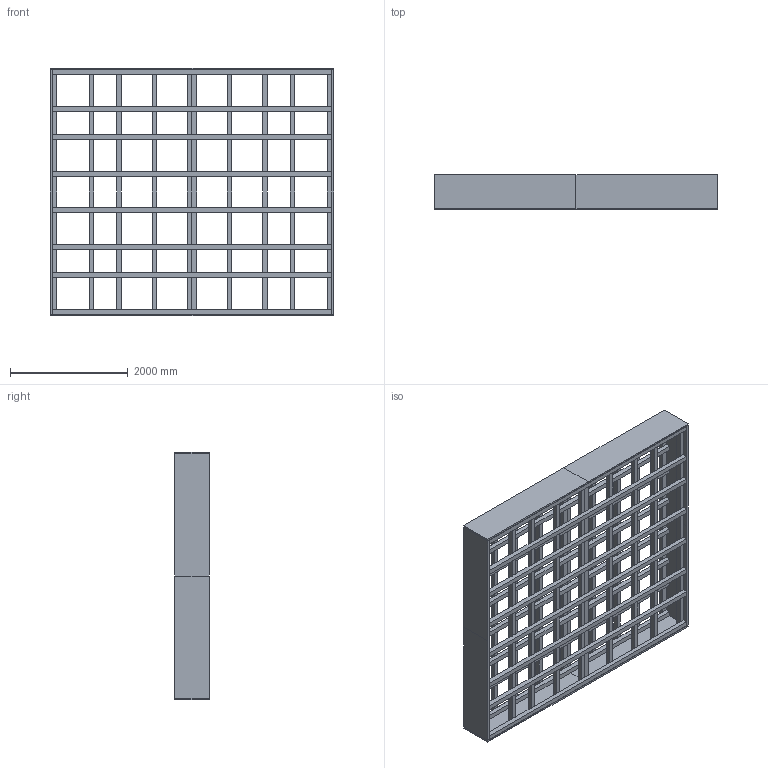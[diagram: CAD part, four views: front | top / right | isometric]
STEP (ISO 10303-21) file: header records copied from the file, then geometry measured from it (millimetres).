
FILE_DESCRIPTION (( 'STEP AP214' ), '1' );
FILE_NAME ('woodtype-4820x4220.STEP', '2026-02-12T13:17:43', ( '' ), ( '' ), 'SwSTEP 2.0', 'SolidWorks 2025', '' );
FILE_SCHEMA (( 'AUTOMOTIVE_DESIGN' ));
Length unit declared in the file: millimetre
Products named in the file (11): wood-580x30x2410-3; wood-580x30x2410-1; wood-580x30x2080-4; woodtype-4820x4220; wood-80x80x4160; wood-80x80x4760; wood-580x30x2080-2; wood-580x30x2080-1; wood-580x30x2410-2; wood-580x30x2410-4; wood-580x30x2080-3
Assembly tree (44 placements, depth 2):
  woodtype-4820x4220
    wood-580x30x2080-1
    wood-580x30x2080-2
    wood-580x30x2080-3
    wood-580x30x2080-4
    wood-580x30x2410-1
    wood-580x30x2410-2
    wood-580x30x2410-3
    wood-580x30x2410-4
    wood-80x80x4160  x20
    wood-80x80x4760  x16
Bounding box: 4820 x 580 x 4220 mm (x, y, z)
Volume: 1332408000 mm3; surface area: 73645600 mm2
Topology: 44 solids, 44 shells, 264 faces, 528 edges, 352 vertices
Faces by surface type: plane 264
Entity records: 2148 total; most frequent: DIRECTION 334, CARTESIAN_POINT 307, ORIENTED_EDGE 240, EDGE_CURVE 120, VECTOR 120, LINE 120, AXIS2_PLACEMENT_3D 107, VERTEX_POINT 80
